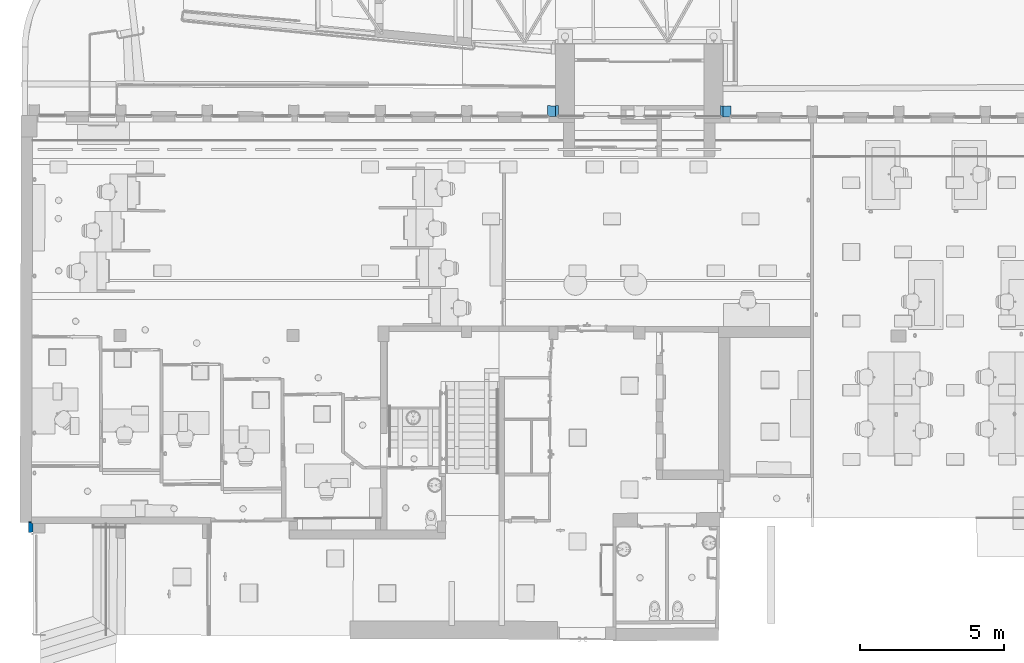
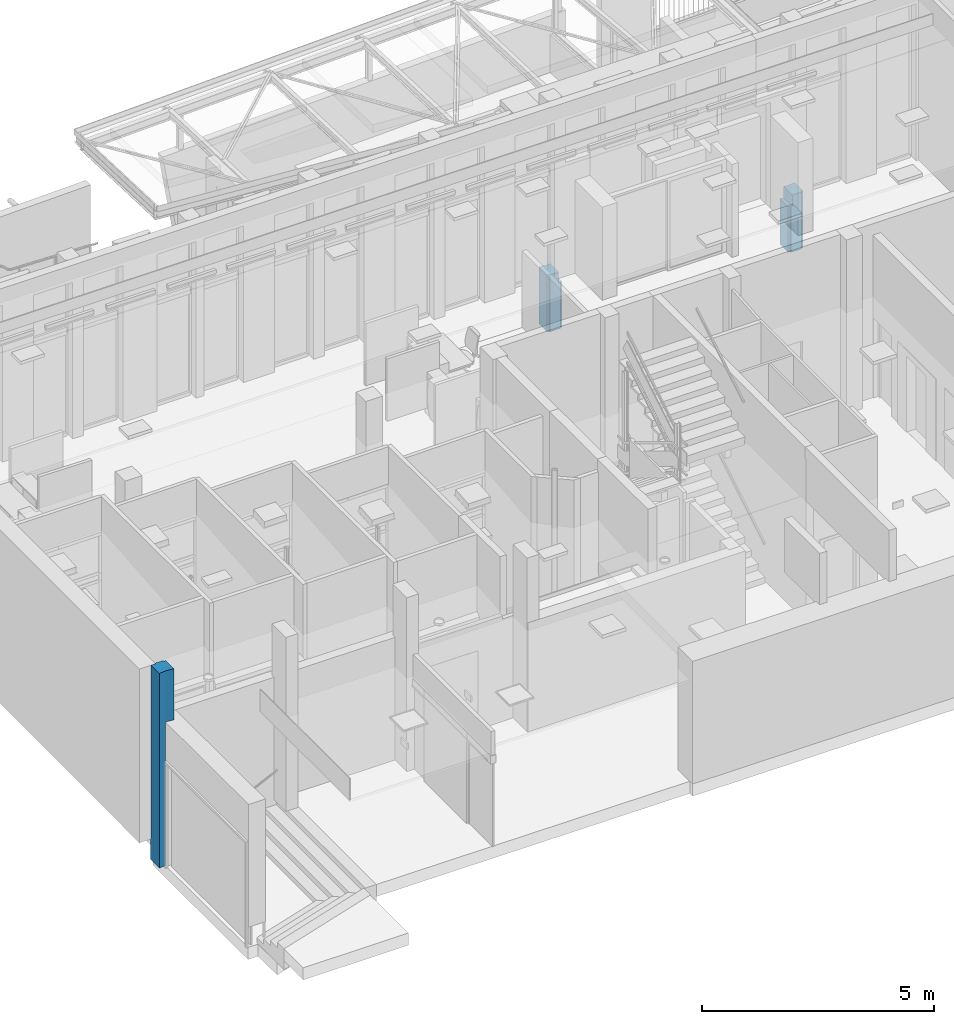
# One storey, part 35 of 128: 3 columns.
"""IFC2X3 building model written with IfcOpenShell, lengths in metres."""

import ifcopenshell
import ifcopenshell.guid

model = None  # the IFC model being written
_history = None  # IfcOwnerHistory: only IFC2X3 demands one
_inside = {}  # id of a spatial element -> (the spatial element, [elements in it])
_under = {}  # id of a project, library or spatial element -> (it, [spatial elements below it])
_declared = {}  # id of a project -> (the project, [libraries it declares])
_typed = {}  # id of a type object -> (the type object, [elements of that type])
_made_of = {}  # id of a material, layer set ... -> (it, [elements and type objects made of it])


def new_model(schema):
    """Start an empty IFC model of exactly this schema.

    Asked for "IFC4X3", IfcOpenShell would pick the latest addendum, in which some entities
    have other attributes; the version numbers below select the first issue.
    IFC2X3 requires an IfcOwnerHistory on every rooted entity: one is made here for all.
    """
    global model, _history
    if schema == "IFC4X3":
        model = ifcopenshell.file(schema_version=(4, 3, 0, 0))
    else:
        model = ifcopenshell.file(schema=schema)
    _inside.clear()
    _under.clear()
    _declared.clear()
    _typed.clear()
    _made_of.clear()
    _history = None
    if model.schema == "IFC2X3":
        org = make("IfcOrganization", Name="unknown")
        user = make(
            "IfcPersonAndOrganization",
            ThePerson=make("IfcPerson", FamilyName="unknown"),
            TheOrganization=org,
        )
        app = make(
            "IfcApplication",
            ApplicationDeveloper=org,
            Version="unknown",
            ApplicationFullName="unknown",
            ApplicationIdentifier="unknown",
        )
        _history = make(
            "IfcOwnerHistory",
            OwningUser=user,
            OwningApplication=app,
            ChangeAction="ADDED",
            CreationDate=0,
        )
    return model


def make(cls, **values):
    """One entity of the class cls with the attributes given. An attribute that is None is left unset."""
    return model.create_entity(
        cls, **{name: value for name, value in values.items() if value is not None}
    )


def entity(cls, *values):
    """Any entity or typed value of the class cls, its attributes in the order of the schema. None: left unset."""
    e = model.create_entity(cls)
    for i, value in enumerate(values):
        if value is not None:
            e[i] = value
    return e


def rooted(cls, **values):
    """An entity with a GlobalId (a new one), such as an element, a storey or a relation."""
    return make(cls, GlobalId=ifcopenshell.guid.new(), OwnerHistory=_history, **values)


def si_unit(unit_type, name, prefix=None):
    """IfcSIUnit, for example si_unit("LENGTHUNIT", "METRE", prefix="MILLI")."""
    return make("IfcSIUnit", UnitType=unit_type, Prefix=prefix, Name=name)


def converted_unit(unit_type, name, factor, base, dimensions=None, offset=None):
    """IfcConversionBasedUnit, such as the inch: factor (a typed value) times the base unit."""
    return make(
        "IfcConversionBasedUnit"
        if offset is None
        else "IfcConversionBasedUnitWithOffset",
        ConversionOffset=offset,
        Dimensions=None
        if dimensions is None
        else entity("IfcDimensionalExponents", *dimensions),
        UnitType=unit_type,
        Name=name,
        ConversionFactor=make(
            "IfcMeasureWithUnit", ValueComponent=factor, UnitComponent=base
        ),
    )


def derived_unit(unit_type, elements):
    """IfcDerivedUnit: a product of units, each with its exponent."""
    return make(
        "IfcDerivedUnit",
        Elements=[
            make("IfcDerivedUnitElement", Unit=unit, Exponent=power)
            for unit, power in elements
        ],
        UnitType=unit_type,
    )


def assignment(units):
    """IfcUnitAssignment: the units of a project."""
    return None if units is None else make("IfcUnitAssignment", Units=units)


def point(xyz):
    """IfcCartesianPoint."""
    return None if xyz is None else make("IfcCartesianPoint", Coordinates=xyz)


def direction(xyz):
    """IfcDirection."""
    return None if xyz is None else make("IfcDirection", DirectionRatios=xyz)


def frame(location, z_axis=None, x_axis=None):
    """IfcAxis2Placement3D, a coordinate frame: its origin and axes. An axis left out is left unset."""
    return make(
        "IfcAxis2Placement3D",
        Location=point(location),
        Axis=direction(z_axis),
        RefDirection=direction(x_axis),
    )


def origin():
    """The frame at (0, 0, 0) with its axes left unset."""
    return frame((0.0, 0.0, 0.0))


def place(relative_to, where):
    """IfcLocalPlacement: puts the frame where relative to a parent placement (None: the world)."""
    return make(
        "IfcLocalPlacement", PlacementRelTo=relative_to, RelativePlacement=where
    )


def context(
    kind, dimensions, precision=None, world=None, true_north=None, identifier=None
):
    """IfcGeometricRepresentationContext, for example the 3D "Model" context."""
    return make(
        "IfcGeometricRepresentationContext",
        ContextIdentifier=identifier,
        ContextType=kind,
        CoordinateSpaceDimension=dimensions,
        Precision=precision,
        WorldCoordinateSystem=world,
        TrueNorth=true_north,
    )


def subcontext(parent, identifier, kind, view, scale=None):
    """IfcGeometricRepresentationSubContext, for example "Body" below "Model"."""
    return make(
        "IfcGeometricRepresentationSubContext",
        ContextIdentifier=identifier,
        ContextType=kind,
        ParentContext=parent,
        TargetScale=scale,
        TargetView=view,
    )


def project(units=None, contexts=None):
    """IfcProject with its units and contexts."""
    return rooted(
        "IfcProject",
        Name="project",
        RepresentationContexts=contexts,
        UnitsInContext=assignment(units),
    )


def spatial(cls, under=None, at=None, **own):
    """A site, building, storey or space (cls), placed at a placement, below another one or the project."""
    s = rooted(cls, ObjectPlacement=at, **own)
    if under is not None:
        _under.setdefault(under.id(), (under, []))[1].append(s)
    return s


def faces_of(points, faces, orient=None, outer=None):
    """IfcFace entities. A face is a list of loops; a loop is a list of indices into points, from 0.

    orient and outer hold one flag for each loop. By default every Orientation is true, the
    first loop of a face is its IfcFaceOuterBound and the others are IfcFaceBound.
    """
    made = []
    for i, loops in enumerate(faces):
        bounds = []
        for j, loop in enumerate(loops):
            is_outer = j == 0 if outer is None else outer[i][j]
            bounds.append(
                make(
                    "IfcFaceOuterBound" if is_outer else "IfcFaceBound",
                    Bound=make("IfcPolyLoop", Polygon=[points[k] for k in loop]),
                    Orientation=True if orient is None else orient[i][j],
                )
            )
        made.append(make("IfcFace", Bounds=bounds))
    return made


def faceted_brep(points, faces, orient=None, outer=None, voids=None):
    """IfcFacetedBrep: a solid bounded by flat faces; with voids (closed shells), ...WithVoids."""
    shared = [point(p) for p in points]
    hull = make("IfcClosedShell", CfsFaces=faces_of(shared, faces, orient, outer))
    if voids is None:
        return make("IfcFacetedBrep", Outer=hull)
    return make(
        "IfcFacetedBrepWithVoids",
        Outer=hull,
        Voids=[
            make(cls, CfsFaces=faces_of(shared, fs, o, b)) for cls, fs, o, b in voids
        ],
    )


def shape(context_of_items, identifier, shape_type, items):
    """IfcShapeRepresentation: the items that make up one representation, for example the "Body"."""
    return make(
        "IfcShapeRepresentation",
        ContextOfItems=context_of_items,
        RepresentationIdentifier=identifier,
        RepresentationType=shape_type,
        Items=items,
    )


def source(mapping_origin, context_of_items, identifier, shape_type, items):
    """IfcRepresentationMap: a shape defined once, which mapped items show again and again."""
    return make(
        "IfcRepresentationMap",
        MappingOrigin=mapping_origin,
        MappedRepresentation=shape(context_of_items, identifier, shape_type, items),
    )


def transform(
    local_origin,
    x_axis=None,
    y_axis=None,
    z_axis=None,
    scale=None,
    scale2=None,
    scale3=None,
    uniform=True,
):
    """IfcCartesianTransformationOperator3D, or its non-uniform kind. x_axis, y_axis, z_axis: its Axis1, 2, 3."""
    if uniform:
        return make(
            "IfcCartesianTransformationOperator3D",
            Axis1=direction(x_axis),
            Axis2=direction(y_axis),
            LocalOrigin=point(local_origin),
            Scale=scale,
            Axis3=direction(z_axis),
        )
    return make(
        "IfcCartesianTransformationOperator3DnonUniform",
        Axis1=direction(x_axis),
        Axis2=direction(y_axis),
        LocalOrigin=point(local_origin),
        Scale=scale,
        Axis3=direction(z_axis),
        Scale2=scale2,
        Scale3=scale3,
    )


def mapped(mapping_source, mapping_target):
    """IfcMappedItem: shows the shape of a source again, moved by a transform."""
    return make(
        "IfcMappedItem", MappingSource=mapping_source, MappingTarget=mapping_target
    )


def material(Name=None, Category=None):
    """IfcMaterial."""
    return make("IfcMaterial", Name=Name, Category=Category)


def made_of(thing, what):
    """Note that an element or type object is made of a material, layer set ...; save() writes the relation."""
    if what is not None:
        _made_of.setdefault(what.id(), (what, []))[1].append(thing)
    return thing


def type_object(cls, material=None, **own):
    """A type object (cls), such as IfcWallType, which elements share."""
    return made_of(rooted(cls, **own), material)


def type_shapes(of_type, sources):
    """Give a type object the sources (RepresentationMaps) that its elements show as mapped items."""
    of_type.RepresentationMaps = sources


def element(
    cls,
    number,
    at=None,
    inside=None,
    cuts=None,
    type_object=None,
    material=None,
    context=None,
    identifier="Body",
    shape_type=None,
    held_by="IfcProductDefinitionShape",
    body=None,
    shapes=None,
    **own,
):
    """One element of the class cls, such as IfcWall. Its Tag is "e" and its number.

    at: its placement. inside: the storey or other place that contains it. cuts: it is an
    opening in that element (IfcRelVoidsElement). A single representation is given by context,
    identifier, shape_type and body (its items); several are given by shapes. held_by: the class
    of the entity that holds the representations. save() writes the other relations.
    """
    e = rooted(cls, Tag="e%d" % number, ObjectPlacement=at, **own)
    if body is not None:
        shapes = [shape(context, identifier, shape_type, body)]
    if shapes is not None:
        e.Representation = make(held_by, Representations=shapes)
    if inside is not None:
        _inside.setdefault(inside.id(), (inside, []))[1].append(e)
    if cuts is not None:
        rooted(
            "IfcRelVoidsElement", RelatingBuildingElement=cuts, RelatedOpeningElement=e
        )
    if type_object is not None:
        _typed.setdefault(type_object.id(), (type_object, []))[1].append(e)
    return made_of(e, material)


def aggregate(whole, parts):
    """IfcRelAggregates: a whole, such as a stair, and the parts it consists of."""
    return rooted("IfcRelAggregates", RelatingObject=whole, RelatedObjects=parts)


def save(model, path):
    """Write the relations noted so far, then the file.

    IfcRelAggregates (storeys below a building ...), IfcRelContainedInSpatialStructure (elements
    in a storey), IfcRelDefinesByType, IfcRelAssociatesMaterial and IfcRelDeclares: one each for
    every whole, place, type object, material and project.
    """
    for whole, parts in _under.values():
        aggregate(whole, parts)
    for where, things in _inside.values():
        rooted(
            "IfcRelContainedInSpatialStructure",
            RelatedElements=things,
            RelatingStructure=where,
        )
    for kind, things in _typed.values():
        rooted("IfcRelDefinesByType", RelatedObjects=things, RelatingType=kind)
    for what, things in _made_of.values():
        rooted("IfcRelAssociatesMaterial", RelatedObjects=things, RelatingMaterial=what)
    for by, libraries in _declared.values():
        rooted("IfcRelDeclares", RelatingContext=by, RelatedDefinitions=libraries)
    model.write(path)


model = new_model("IFC2X3")

# Units and contexts
model_context = context("Model", 3, precision=1e-05, world=origin(), true_north=direction((6.123031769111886e-17, 1.0)))
body_context = subcontext(model_context, "Body", "Model", "MODEL_VIEW")
ifc_project = project(units=[si_unit("LENGTHUNIT", "METRE"), si_unit("AREAUNIT", "SQUARE_METRE"), converted_unit("PLANEANGLEUNIT", "DEGREE", entity("IfcPlaneAngleMeasure", 0.017453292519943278), si_unit("PLANEANGLEUNIT", "RADIAN"), dimensions=[0, 0, 0, 0, 0, 0, 0]), derived_unit("THERMALTRANSMITTANCEUNIT", [(si_unit("MASSUNIT", "GRAM", prefix="KILO"), 1), (si_unit("THERMODYNAMICTEMPERATUREUNIT", "KELVIN"), -1), (si_unit("TIMEUNIT", "SECOND"), -3)])], contexts=[model_context])

# Site, building, storey
site_placement = place(None, origin())
site = spatial("IfcSite", under=ifc_project, at=site_placement, Name="Default", CompositionType="ELEMENT")
building_placement = place(site_placement, origin())
building = spatial("IfcBuilding", under=site, at=building_placement, CompositionType="ELEMENT")
storey_placement = place(building_placement, origin())
storey = spatial("IfcBuildingStorey", under=building, at=storey_placement, Name="00_RDC CAF", CompositionType="ELEMENT", Elevation=2.4982504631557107e-13)

# Columns
ifc_material = material(Name="STR - Beton")
column_type_1 = type_object("IfcColumnType", Name="Po_Béton_Creusé _Bord:365mm x 385mm", PredefinedType="COLUMN", material=ifc_material)
shared_shape_1 = source(origin(), body_context, "Body", "Brep", [
    faceted_brep([(6.551365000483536, 129.70780518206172, -0.5499999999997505), (6.5522490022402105, 130.09280416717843, -0.5499999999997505), (6.660784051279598, 130.09255495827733, -0.5499999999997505), (6.660584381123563, 130.02366936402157, -0.5499999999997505), (6.712590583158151, 130.0235499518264, -0.5499999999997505), (6.713080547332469, 129.72515175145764, -0.5499999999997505), (6.7339104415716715, 129.72738608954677, 4.578000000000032), (6.551365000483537, 129.70780518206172, 4.578000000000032), (6.713080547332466, 129.72515175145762, 3.2300000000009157), (6.733910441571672, 129.72738608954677, 3.230000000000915), (6.916364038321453, 129.70696710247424, 4.578000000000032), (6.916364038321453, 129.7069671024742, 3.230000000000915), (6.917179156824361, 130.06196616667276, 4.578000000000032), (6.91717915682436, 130.06196616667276, 3.2300000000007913), (6.871379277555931, 130.06207132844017, 4.578000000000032), (6.871379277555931, 130.06207132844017, 3.2300000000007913), (6.552186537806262, 130.06559976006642, 4.578000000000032), (6.552186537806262, 130.06559976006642, 0.0), (6.5522490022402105, 130.09280416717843, 0.0), (6.871448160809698, 130.09207124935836, 4.578000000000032), (6.871448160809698, 130.09207124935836, 3.2300000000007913), (6.660784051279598, 130.0925549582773, 4.578000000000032), (6.660784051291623, 130.09255495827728, 3.230000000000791), (6.660705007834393, 130.065285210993, 4.578000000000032), (6.660705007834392, 130.065285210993, 3.230000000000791), (6.660705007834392, 130.065285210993, 0.0), (6.712590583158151, 130.02354995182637, 3.2300000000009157), (6.660584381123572, 130.02366936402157, 3.2300000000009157), (6.660784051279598, 130.0925549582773, 0.0)], [[[0, 1, 2, 3, 4, 5]], [[6, 7, 0, 5, 8, 9]], [[10, 6, 9, 11]], [[12, 10, 11, 13]], [[14, 12, 13, 15]], [[1, 0, 7, 16, 17, 18]], [[19, 14, 15, 20]], [[21, 19, 20, 22]], [[7, 6, 10, 12, 14, 19, 21, 23, 16]], [[23, 21, 22, 24]], [[17, 16, 23, 24, 25]], [[26, 8, 5, 4]], [[8, 26, 27, 24, 22, 20, 15, 13, 11, 9]], [[17, 25, 28, 18]], [[27, 26, 4, 3]], [[24, 27, 3, 2, 28, 25]], [[18, 28, 2, 1]]]),
])
type_shapes(column_type_1, [shared_shape_1])
column_1_placement = place(storey_placement, origin())
element("IfcColumn", 1, at=column_1_placement, inside=storey, type_object=column_type_1, material=ifc_material, Name="Po_Béton_Creusé _Bord:365mm x 385mm", ObjectType="Po_Béton_Creusé _Bord:365mm x 385mm", context=body_context, shape_type="MappedRepresentation", body=[
    mapped(shared_shape_1, transform((0.0, 0.0, 0.0), scale=1.0)),
])
column_type_2 = type_object("IfcColumnType", Name="Po_Béton_Creusé_Courant:365mm x 385mm", PredefinedType="COLUMN", material=ifc_material)
shared_shape_2 = source(origin(), body_context, "Body", "Brep", [
    faceted_brep([(30.56681764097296, 144.1611015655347, -1.4999999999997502), (30.56737594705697, 144.51610112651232, -1.4999999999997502), (30.74984426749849, 144.495814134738, -1.4999999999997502), (30.932375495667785, 144.5155270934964, -1.4999999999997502), (30.931817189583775, 144.16052753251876, -1.4999999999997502), (30.886017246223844, 144.16059956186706, -1.4999999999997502), (30.88597006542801, 144.13059959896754, -1.4999999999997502), (30.61257040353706, 144.13102957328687, -1.4999999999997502), (30.61261758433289, 144.1610295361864, -1.4999999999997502), (30.56681764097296, 144.16110156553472, -0.29999999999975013), (30.56737594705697, 144.51610112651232, -0.29999999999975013), (30.650725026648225, 144.50683430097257, -0.29999999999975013), (30.650725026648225, 144.50683430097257, -0.21999999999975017), (30.650725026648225, 144.50683430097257, -0.16999999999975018), (30.6507250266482, 144.50683430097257, 0.0), (30.74984426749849, 144.49581413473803, 0.0), (30.74984426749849, 144.49581413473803, -0.16999999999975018), (30.74984426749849, 144.49581413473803, -0.21999999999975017), (30.93237549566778, 144.5155270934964, 0.0), (30.93237549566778, 144.5155270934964, -0.16999999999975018), (30.93237549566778, 144.5155270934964, -0.21999999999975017), (30.931817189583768, 144.16052753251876, 0.0), (30.931817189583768, 144.16052753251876, -0.16999999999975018), (30.931817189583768, 144.16052753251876, -0.21999999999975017), (30.885970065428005, 144.13059959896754, -0.31999999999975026), (30.885970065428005, 144.13059959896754, -0.21999999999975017), (30.885970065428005, 144.13059959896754, -0.16999999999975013), (30.88597006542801, 144.13059959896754, 0.0), (30.65072502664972, 144.13096956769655, 0.0), (30.650725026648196, 144.13096956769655, -0.29999999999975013), (30.61257040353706, 144.13102957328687, -0.29999999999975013), (30.61257040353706, 144.13102957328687, -0.3199999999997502), (30.886017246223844, 144.16059956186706, 0.0), (30.886017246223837, 144.16059956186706, -0.16999999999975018), (30.886017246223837, 144.16059956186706, -0.21999999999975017), (30.61261758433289, 144.1610295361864, -0.29999999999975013)], [[[0, 1, 2, 3, 4, 5, 6, 7, 8]], [[1, 0, 9, 10]], [[2, 1, 10, 11, 12, 13, 14, 15, 16, 17]], [[3, 2, 17, 16, 15, 18, 19, 20]], [[4, 3, 20, 19, 18, 21, 22, 23]], [[7, 6, 24, 25, 26, 27, 28, 29, 30, 31]], [[18, 15, 14, 28, 27, 32, 21]], [[5, 4, 23, 22, 21, 32, 33, 34]], [[6, 5, 34, 33, 32, 27, 26, 25, 24]], [[8, 7, 31, 30, 35]], [[0, 8, 35, 9]], [[29, 11, 10, 9, 35, 30]], [[11, 29, 28, 14, 13, 12]]]),
])
type_shapes(column_type_2, [shared_shape_2])
column_2_placement = place(storey_placement, origin())
element("IfcColumn", 2, at=column_2_placement, inside=storey, type_object=column_type_2, material=ifc_material, Name="Po_Béton_Creusé_Courant:365mm x 385mm", ObjectType="Po_Béton_Creusé_Courant:365mm x 385mm", context=body_context, shape_type="MappedRepresentation", body=[
    mapped(shared_shape_2, transform((0.0, 0.0, 0.0), scale=1.0)),
])
column_type_3 = type_object("IfcColumnType", Name="Po_Béton_Creusé_Courant:365mm x 385mm", PredefinedType="COLUMN", material=ifc_material)
shared_shape_3 = source(origin(), body_context, "Body", "Brep", [
    faceted_brep([(24.566830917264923, 144.17053771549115, -1.4999999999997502), (24.567389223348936, 144.52553727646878, -1.4999999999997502), (24.749857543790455, 144.50525028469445, -1.4999999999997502), (24.93238877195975, 144.52496324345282, -1.4999999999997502), (24.931830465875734, 144.16996368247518, -1.4999999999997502), (24.886030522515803, 144.1700357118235, -1.4999999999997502), (24.88598334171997, 144.14003574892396, -1.4999999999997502), (24.61258367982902, 144.14046572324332, -1.4999999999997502), (24.612630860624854, 144.17046568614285, -1.4999999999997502), (24.566830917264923, 144.17053771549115, -0.21999999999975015), (24.566830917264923, 144.17053771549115, -0.1699999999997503), (24.566830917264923, 144.17053771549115, 0.0), (24.56738922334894, 144.52553727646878, 0.0), (24.56738922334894, 144.52553727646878, -0.16999999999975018), (24.56738922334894, 144.52553727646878, -0.21999999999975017), (24.749857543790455, 144.50525028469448, 0.0), (24.749857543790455, 144.50525028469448, -0.16999999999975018), (24.749857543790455, 144.50525028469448, -0.21999999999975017), (24.83487233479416, 144.51443168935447, 0.0), (24.83487233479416, 144.51443168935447, -0.16999999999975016), (24.83487233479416, 144.51443168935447, -0.21999999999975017), (24.834872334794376, 144.5144316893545, -0.29999999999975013), (24.93238877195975, 144.52496324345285, -0.29999999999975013), (24.93183046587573, 144.16996368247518, -0.29999999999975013), (24.885983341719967, 144.140035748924, -0.31999999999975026), (24.885983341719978, 144.14003574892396, -0.29999999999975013), (24.834872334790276, 144.14011613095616, -0.29999999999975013), (24.834872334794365, 144.14011613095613, 0.0), (24.61258367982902, 144.14046572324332, 0.0), (24.61258367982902, 144.14046572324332, -0.16999999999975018), (24.61258367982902, 144.14046572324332, -0.21999999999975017), (24.61258367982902, 144.14046572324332, -0.3199999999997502), (24.612630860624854, 144.17046568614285, 0.0), (24.8860305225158, 144.17003571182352, -0.29999999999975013), (24.612630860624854, 144.17046568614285, -0.16999999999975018), (24.612630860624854, 144.17046568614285, -0.21999999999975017)], [[[0, 1, 2, 3, 4, 5, 6, 7, 8]], [[1, 0, 9, 10, 11, 12, 13, 14]], [[2, 1, 14, 13, 12, 15, 16, 17]], [[3, 2, 17, 16, 15, 18, 19, 20, 21, 22]], [[4, 3, 22, 23]], [[7, 6, 24, 25, 26, 27, 28, 29, 30, 31]], [[12, 11, 32, 28, 27, 18, 15]], [[5, 4, 23, 33]], [[6, 5, 33, 25, 24]], [[8, 7, 31, 30, 29, 28, 32, 34, 35]], [[0, 8, 35, 34, 32, 11, 10, 9]], [[21, 26, 25, 33, 23, 22]], [[26, 21, 20, 19, 18, 27]]]),
])
type_shapes(column_type_3, [shared_shape_3])
column_3_placement = place(storey_placement, origin())
element("IfcColumn", 3, at=column_3_placement, inside=storey, type_object=column_type_3, material=ifc_material, Name="Po_Béton_Creusé_Courant:365mm x 385mm", ObjectType="Po_Béton_Creusé_Courant:365mm x 385mm", context=body_context, shape_type="MappedRepresentation", body=[
    mapped(shared_shape_3, transform((0.0, 0.0, 0.0), scale=1.0)),
])

save(model, "model.ifc")
